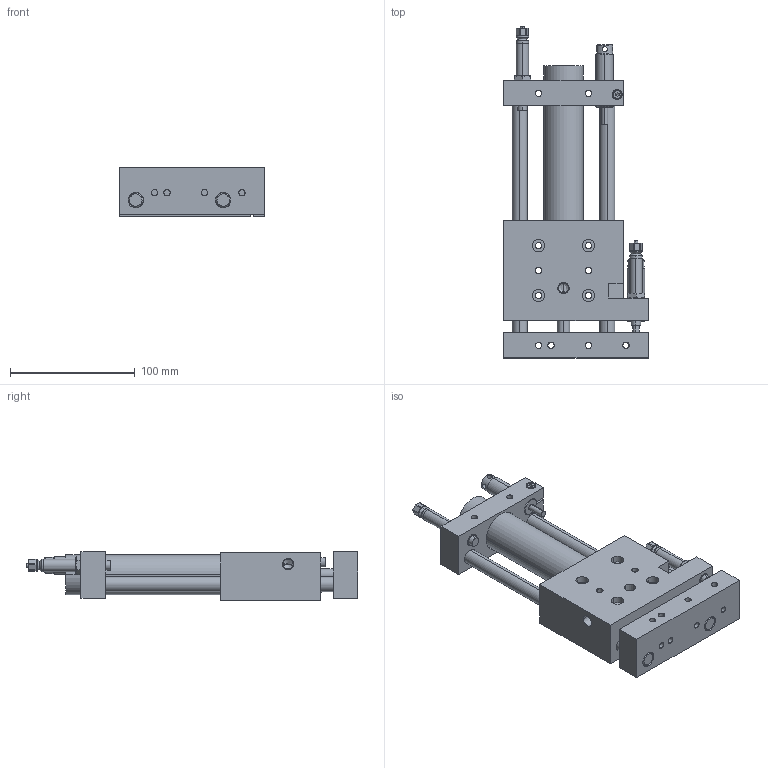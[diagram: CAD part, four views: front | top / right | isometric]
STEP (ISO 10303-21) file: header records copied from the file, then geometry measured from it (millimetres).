
FILE_DESCRIPTION (( 'STEP AP214' ), '1' );
FILE_NAME ('meto-fer_ml26-100.STEP', '2004-12-31T14:28:30', ( ' ' ), ( ' ' ), 'SwSTEP 2.0', 'SolidWorks 2003240', '' );
FILE_SCHEMA (( 'AUTOMOTIVE_DESIGN' ));
Length unit declared in the file: millimetre
Products named in the file (9): meto-fer_ml26-100_shaft; meto-fer_ml26-100_tf; meto-fer_ml26_pp; meto-fer_kb-08; meto-fer_mu-01-004; meto-fer_as-10-50; meto-fer_ml26-100_sd; Socket Head Cap Screw_DIN_DIN 912 M4 x 12 --- 12N; meto-fer_ml26-100
Assembly tree (13 placements, depth 2):
  meto-fer_ml26-100
    meto-fer_kb-08  x2
    meto-fer_as-10-50  x2
    Socket Head Cap Screw_DIN_DIN 912 M4 x 12 --- 12N  x2
    meto-fer_mu-01-004  x2
    meto-fer_ml26-100_sd
    meto-fer_ml26_pp
    meto-fer_ml26-100_shaft  x2
    meto-fer_ml26-100_tf
Bounding box: 116 x 266 x 39 mm (x, y, z)
Volume: 578969.4 mm3; surface area: 122824.5 mm2
Topology: 13 solids, 13 shells, 462 faces, 1087 edges, 652 vertices
Faces by surface type: cylinder 176, cone 142, plane 136, torus 8
Entity records: 11296 total; most frequent: CARTESIAN_POINT 2155, DIRECTION 1805, ORIENTED_EDGE 1610, EDGE_CURVE 805, AXIS2_PLACEMENT_3D 719, VERTEX_POINT 493, EDGE_LOOP 428, VECTOR 367
